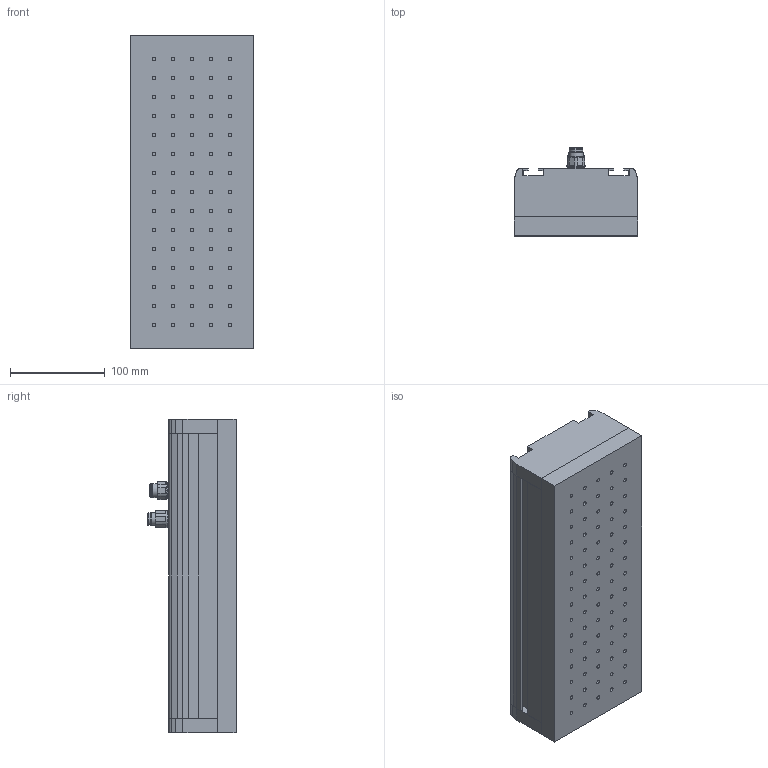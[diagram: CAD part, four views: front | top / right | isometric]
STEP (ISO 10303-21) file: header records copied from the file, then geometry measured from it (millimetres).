
FILE_DESCRIPTION (( 'STEP AP214' ), '1' );
FILE_NAME ('STEP - CVM 130x300.STEP', '2023-12-19T16:02:01', ( '' ), ( '' ), 'SwSTEP 2.0', 'SolidWorks 2021', '' );
FILE_SCHEMA (( 'AUTOMOTIVE_DESIGN' ));
Length unit declared in the file: millimetre
Products named in the file (1): STEP - CVM 130x300
Bounding box: 130 x 92.99 x 330 mm (x, y, z)
Volume: 2836806.9 mm3; surface area: 324575.2 mm2
Topology: 10 solids, 10 shells, 350 faces, 713 edges, 466 vertices
Faces by surface type: plane 209, cylinder 109, cone 24, bspline 6, torus 2
Full cylindrical faces by diameter (mm): 4 x75, 8 x1, 8.3 x1, 8.566 x2, 9.24 x1, 9.44 x1, 10 x4, 11 x4, 11.445 x1, 11.45 x1, 13 x1, 13.42 x1, 13.66 x1, 14.5 x1, 14.76 x1, 14.94 x1, 14.95 x1, 17 x1, 18 x1, 19 x1
Entity records: 14427 total; most frequent: CARTESIAN_POINT 4542, DIRECTION 1488, ORIENTED_EDGE 1172, AXIS2_PLACEMENT_3D 600, EDGE_CURVE 586, EDGE_LOOP 558, VERTEX_POINT 456, FACE_OUTER_BOUND 449
